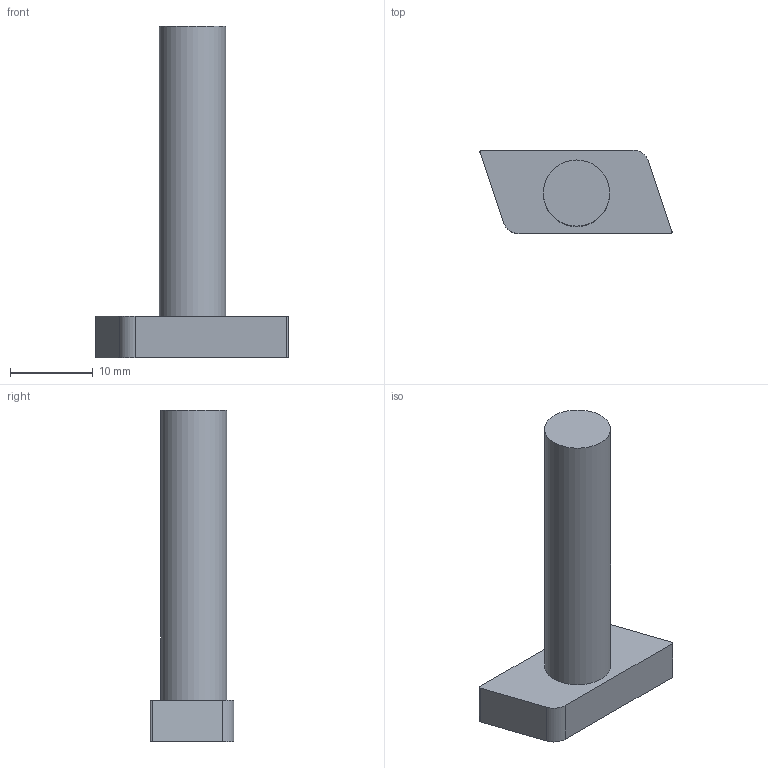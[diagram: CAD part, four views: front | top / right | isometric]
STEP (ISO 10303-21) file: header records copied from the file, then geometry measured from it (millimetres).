
FILE_DESCRIPTION((''),'2;1');
FILE_NAME('C:\Vault Klient\Projekt\Step\100-6080.stp','2009-12-10T12:45:38',('Mathias'),(''),'Autodesk Inventor 2010','Autodesk Inventor 2010','');
FILE_SCHEMA(('CONFIG_CONTROL_DESIGN'));
Length unit declared in the file: millimetre
Products named in the file (1): 100-6080
Bounding box: 23.21 x 10.11 x 40 mm (x, y, z)
Volume: 2765.8 mm3; surface area: 1583.1 mm2
Topology: 1 solids, 1 shells, 12 faces, 27 edges, 18 vertices
Faces by surface type: plane 7, cylinder 5
Full cylindrical faces by diameter (mm): 8 x1
Entity records: 362 total; most frequent: DIRECTION 62, CARTESIAN_POINT 57, ORIENTED_EDGE 52, EDGE_CURVE 26, AXIS2_PLACEMENT_3D 23, VERTEX_POINT 18, VECTOR 16, LINE 16
